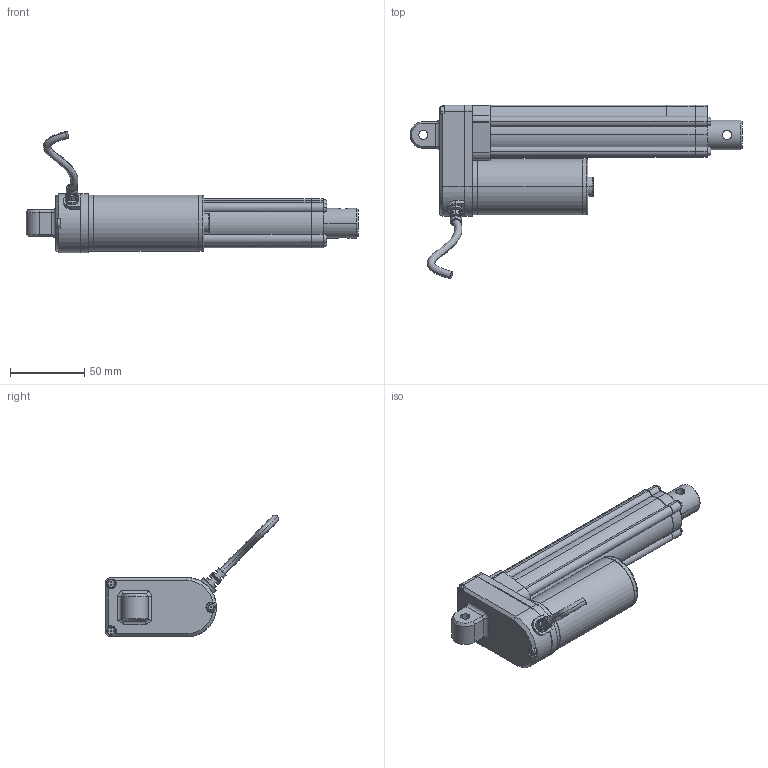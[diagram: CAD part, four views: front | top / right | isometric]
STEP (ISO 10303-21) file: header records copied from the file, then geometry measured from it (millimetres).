
FILE_DESCRIPTION(('STEP AP203'),'1');
FILE_NAME('dj806b1100205a0f011r01111111a01230619181343.stp','2025-06-19T18:13:47',('TraceParts'),('TraceParts S.A.'),'Spatial InterOp 3D',' ',' ');
FILE_SCHEMA(('CONFIG_CONTROL_DESIGN'));
Length unit declared in the file: millimetre
Products named in the file (1): 1
Bounding box: 224 x 117.13 x 82.13 mm (x, y, z)
Volume: 315117.5 mm3; surface area: 45387.6 mm2
Topology: 1 solids, 1 shells, 365 faces, 995 edges, 645 vertices
Faces by surface type: plane 194, cylinder 109, bspline 40, cone 14, torus 8
Entity records: 13567 total; most frequent: CARTESIAN_POINT 4670, ORIENTED_EDGE 1982, DIRECTION 1707, EDGE_CURVE 991, VERTEX_POINT 645, AXIS2_PLACEMENT_3D 597, LINE 513, VECTOR 513
